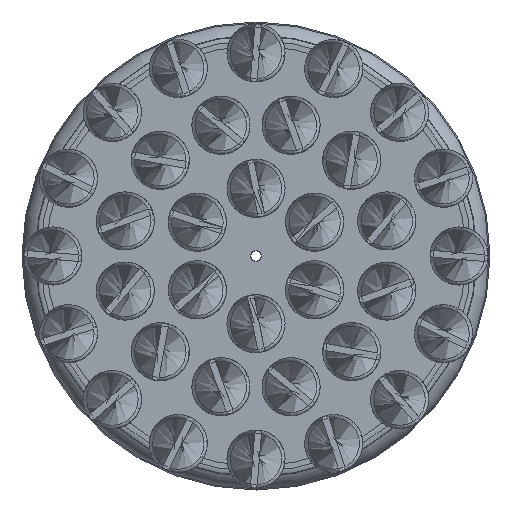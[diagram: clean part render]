
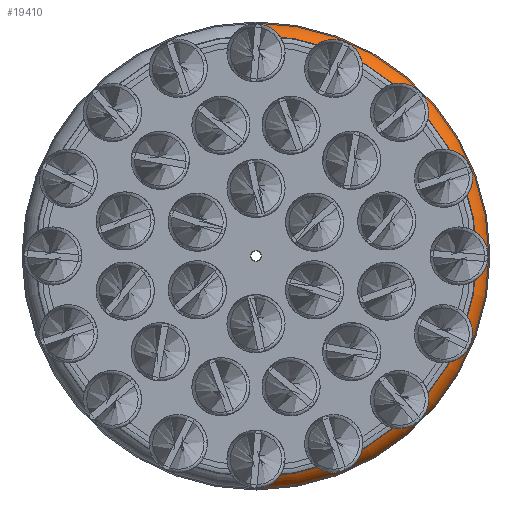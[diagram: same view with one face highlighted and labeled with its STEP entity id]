
A CAD part, front view. The second image highlights one B-rep face of the part: STEP entity #19410.
In plain terms, the highlighted toroidal (fillet/blend) face has major radius 214.975 mm and minor radius 27.025 mm.
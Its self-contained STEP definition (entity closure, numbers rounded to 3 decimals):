
#465 = DIRECTION ( 'NONE',  ( 0., 1., 0. ) ) ;
#726 = TOROIDAL_SURFACE ( 'NONE', #12441, 214.975, 27.025 ) ;
#1089 = EDGE_CURVE ( 'NONE', #15561, #13358, #7918, .T. ) ;
#1304 = DIRECTION ( 'NONE',  ( 0., 0., 1. ) ) ;
#2215 = AXIS2_PLACEMENT_3D ( 'NONE', #5276, #14273, #14175 ) ;
#2701 = CARTESIAN_POINT ( 'NONE',  ( 0., 25., 242. ) ) ;
#3531 = ORIENTED_EDGE ( 'NONE', *, *, #11252, .F. ) ;
#3540 = FACE_OUTER_BOUND ( 'NONE', #5051, .T. ) ;
#4460 = DIRECTION ( 'NONE',  ( 0., 0., 1. ) ) ;
#4791 = ORIENTED_EDGE ( 'NONE', *, *, #1089, .T. ) ;
#4814 = CARTESIAN_POINT ( 'NONE',  ( 0., 1.433, 228.203 ) ) ;
#5051 = EDGE_LOOP ( 'NONE', ( #10171, #4791, #15512, #3531 ) ) ;
#5276 = CARTESIAN_POINT ( 'NONE',  ( 0., 25., -214.975 ) ) ;
#5498 = DIRECTION ( 'NONE',  ( 0., 0., 1. ) ) ;
#5797 = CARTESIAN_POINT ( 'NONE',  ( 0., 25., 214.975 ) ) ;
#6685 = EDGE_CURVE ( 'NONE', #11917, #15561, #15869, .T. ) ;
#7918 = CIRCLE ( 'NONE', #2215, 27.025 ) ;
#8019 = CARTESIAN_POINT ( 'NONE',  ( 0., 25., 0. ) ) ;
#8423 = EDGE_CURVE ( 'NONE', #18280, #13358, #17167, .T. ) ;
#8978 = AXIS2_PLACEMENT_3D ( 'NONE', #15812, #11458, #19071 ) ;
#9322 = AXIS2_PLACEMENT_3D ( 'NONE', #5797, #16170, #5498 ) ;
#9556 = AXIS2_PLACEMENT_3D ( 'NONE', #14656, #13366, #4460 ) ;
#10171 = ORIENTED_EDGE ( 'NONE', *, *, #6685, .T. ) ;
#11252 = EDGE_CURVE ( 'NONE', #11917, #18280, #15004, .T. ) ;
#11458 = DIRECTION ( 'NONE',  ( 0., 1., 0. ) ) ;
#11917 = VERTEX_POINT ( 'NONE', #4814 ) ;
#12441 = AXIS2_PLACEMENT_3D ( 'NONE', #8019, #465, #1304 ) ;
#13358 = VERTEX_POINT ( 'NONE', #19343 ) ;
#13366 = DIRECTION ( 'NONE',  ( 0., 1., 0. ) ) ;
#13585 = CARTESIAN_POINT ( 'NONE',  ( 0., 1.433, -228.203 ) ) ;
#14175 = DIRECTION ( 'NONE',  ( 0., 0., -1. ) ) ;
#14273 = DIRECTION ( 'NONE',  ( 1., 0., 0. ) ) ;
#14656 = CARTESIAN_POINT ( 'NONE',  ( 0., 1.433, 0. ) ) ;
#15004 = CIRCLE ( 'NONE', #9322, 27.025 ) ;
#15512 = ORIENTED_EDGE ( 'NONE', *, *, #8423, .F. ) ;
#15561 = VERTEX_POINT ( 'NONE', #13585 ) ;
#15812 = CARTESIAN_POINT ( 'NONE',  ( 0., 25., 0. ) ) ;
#15869 = CIRCLE ( 'NONE', #9556, 228.203 ) ;
#16170 = DIRECTION ( 'NONE',  ( -1., 0., 0. ) ) ;
#17167 = CIRCLE ( 'NONE', #8978, 242. ) ;
#18280 = VERTEX_POINT ( 'NONE', #2701 ) ;
#19071 = DIRECTION ( 'NONE',  ( 0., 0., 1. ) ) ;
#19343 = CARTESIAN_POINT ( 'NONE',  ( 0., 25., -242. ) ) ;
#19410 = ADVANCED_FACE ( 'NONE', ( #3540 ), #726, .T. ) ;
